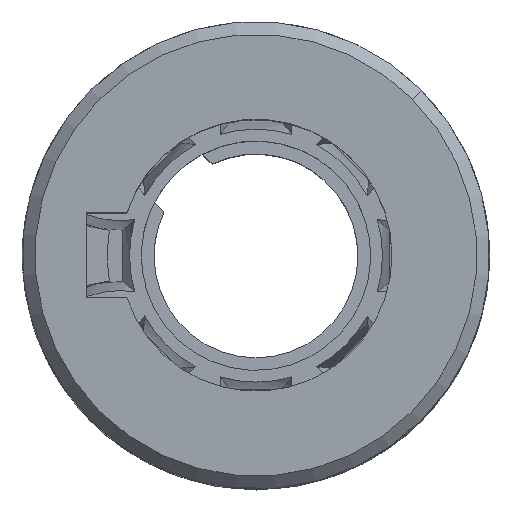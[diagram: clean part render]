
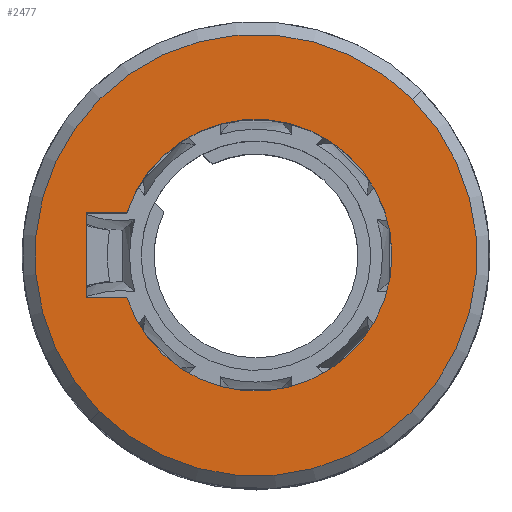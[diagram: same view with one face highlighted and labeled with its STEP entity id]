
A CAD part, top view. The second image highlights one B-rep face of the part: STEP entity #2477.
In plain terms, the highlighted planar face has unit normal (0, 0, 1) as drawn and (0, 0, -1) by its records, which use the part's own axes.
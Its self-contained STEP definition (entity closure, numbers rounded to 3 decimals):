
#313 = CARTESIAN_POINT ( 'NONE',  ( -10.588, 17.689, -30. ) ) ;
#368 = CIRCLE ( 'NONE', #3792, 26. ) ;
#370 = EDGE_CURVE ( 'NONE', #5669, #6274, #368, .T. ) ;
#458 = ORIENTED_EDGE ( 'NONE', *, *, #2754, .F. ) ;
#547 = DIRECTION ( 'NONE',  ( 0., 0., 1. ) ) ;
#639 = VERTEX_POINT ( 'NONE', #1950 ) ;
#730 = ORIENTED_EDGE ( 'NONE', *, *, #6264, .F. ) ;
#735 = DIRECTION ( 'NONE',  ( 0.706, -0.708, 0. ) ) ;
#835 = EDGE_LOOP ( 'NONE', ( #5331, #6654 ) ) ;
#903 = CARTESIAN_POINT ( 'NONE',  ( 0., 0., -30. ) ) ;
#906 = CARTESIAN_POINT ( 'NONE',  ( 0., 0., -30. ) ) ;
#993 = LINE ( 'NONE', #6814, #2891 ) ;
#1190 = CARTESIAN_POINT ( 'NONE',  ( -14.275, 7.226, -30. ) ) ;
#1213 = EDGE_CURVE ( 'NONE', #2742, #4735, #2457, .T. ) ;
#1381 = CARTESIAN_POINT ( 'NONE',  ( -17.667, 10.625, -30. ) ) ;
#1573 = VECTOR ( 'NONE', #6753, 1000. ) ;
#1615 = EDGE_CURVE ( 'NONE', #639, #1726, #5111, .T. ) ;
#1726 = VERTEX_POINT ( 'NONE', #313 ) ;
#1890 = AXIS2_PLACEMENT_3D ( 'NONE', #3362, #5473, #735 ) ;
#1950 = CARTESIAN_POINT ( 'NONE',  ( -17.667, 10.625, -30. ) ) ;
#2032 = PLANE ( 'NONE',  #6640 ) ;
#2043 = CARTESIAN_POINT ( 'NONE',  ( -7.197, 14.29, -30. ) ) ;
#2457 = CIRCLE ( 'NONE', #4671, 16. ) ;
#2477 = ADVANCED_FACE ( 'NONE', ( #2558, #4521 ), #2032, .T. ) ;
#2558 = FACE_BOUND ( 'NONE', #6622, .T. ) ;
#2587 = DIRECTION ( 'NONE',  ( 0., 0., -1. ) ) ;
#2654 = DIRECTION ( 'NONE',  ( 0., 1., 0. ) ) ;
#2684 = CARTESIAN_POINT ( 'NONE',  ( 0., -26., -30. ) ) ;
#2742 = VERTEX_POINT ( 'NONE', #4573 ) ;
#2754 = EDGE_CURVE ( 'NONE', #1726, #6139, #6770, .T. ) ;
#2773 = CIRCLE ( 'NONE', #3661, 26. ) ;
#2891 = VECTOR ( 'NONE', #4795, 1000. ) ;
#3004 = DIRECTION ( 'NONE',  ( 0., 0., -1. ) ) ;
#3362 = CARTESIAN_POINT ( 'NONE',  ( 0., 0., -30. ) ) ;
#3476 = ORIENTED_EDGE ( 'NONE', *, *, #1615, .F. ) ;
#3661 = AXIS2_PLACEMENT_3D ( 'NONE', #906, #3004, #4619 ) ;
#3768 = CARTESIAN_POINT ( 'NONE',  ( -7.197, 14.29, -30. ) ) ;
#3792 = AXIS2_PLACEMENT_3D ( 'NONE', #4341, #547, #2654 ) ;
#4341 = CARTESIAN_POINT ( 'NONE',  ( 0., 0., -30. ) ) ;
#4465 = ORIENTED_EDGE ( 'NONE', *, *, #1213, .F. ) ;
#4521 = FACE_OUTER_BOUND ( 'NONE', #835, .T. ) ;
#4573 = CARTESIAN_POINT ( 'NONE',  ( 11.302, -11.325, -30. ) ) ;
#4609 = DIRECTION ( 'NONE',  ( 0.706, -0.708, 0. ) ) ;
#4619 = DIRECTION ( 'NONE',  ( 0., 1., 0. ) ) ;
#4651 = DIRECTION ( 'NONE',  ( 0., 0., -1. ) ) ;
#4671 = AXIS2_PLACEMENT_3D ( 'NONE', #5728, #2587, #4609 ) ;
#4735 = VERTEX_POINT ( 'NONE', #1190 ) ;
#4795 = DIRECTION ( 'NONE',  ( -0.706, 0.708, 0. ) ) ;
#4899 = VECTOR ( 'NONE', #5589, 1000. ) ;
#5111 = LINE ( 'NONE', #1381, #1573 ) ;
#5113 = DIRECTION ( 'NONE',  ( 0., -1., 0. ) ) ;
#5198 = CARTESIAN_POINT ( 'NONE',  ( 0., 26., -30. ) ) ;
#5210 = CIRCLE ( 'NONE', #1890, 16. ) ;
#5331 = ORIENTED_EDGE ( 'NONE', *, *, #6066, .T. ) ;
#5473 = DIRECTION ( 'NONE',  ( 0., 0., -1. ) ) ;
#5589 = DIRECTION ( 'NONE',  ( 0.706, -0.708, 0. ) ) ;
#5669 = VERTEX_POINT ( 'NONE', #5198 ) ;
#5728 = CARTESIAN_POINT ( 'NONE',  ( 0., 0., -30. ) ) ;
#5791 = ORIENTED_EDGE ( 'NONE', *, *, #6281, .F. ) ;
#6066 = EDGE_CURVE ( 'NONE', #5669, #6274, #2773, .T. ) ;
#6139 = VERTEX_POINT ( 'NONE', #3768 ) ;
#6264 = EDGE_CURVE ( 'NONE', #6139, #2742, #5210, .T. ) ;
#6274 = VERTEX_POINT ( 'NONE', #2684 ) ;
#6281 = EDGE_CURVE ( 'NONE', #4735, #639, #993, .T. ) ;
#6622 = EDGE_LOOP ( 'NONE', ( #3476, #5791, #4465, #730, #458 ) ) ;
#6640 = AXIS2_PLACEMENT_3D ( 'NONE', #903, #4651, #5113 ) ;
#6654 = ORIENTED_EDGE ( 'NONE', *, *, #370, .F. ) ;
#6753 = DIRECTION ( 'NONE',  ( 0.708, 0.706, 0. ) ) ;
#6770 = LINE ( 'NONE', #2043, #4899 ) ;
#6814 = CARTESIAN_POINT ( 'NONE',  ( -14.275, 7.226, -30. ) ) ;
